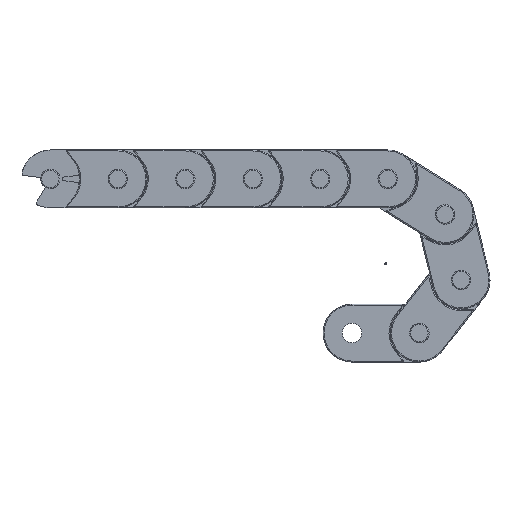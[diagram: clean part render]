
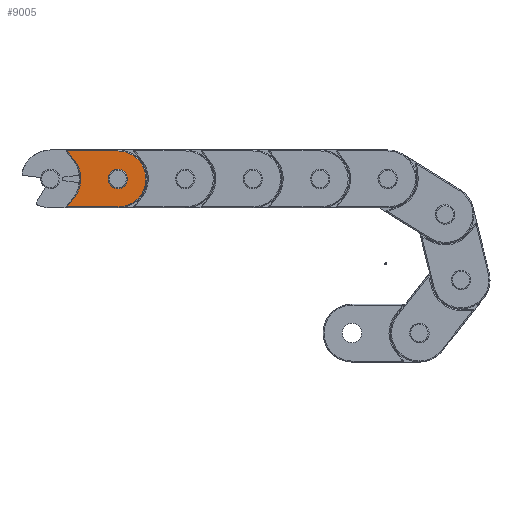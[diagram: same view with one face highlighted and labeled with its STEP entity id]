
A CAD part, left-side view. The second image highlights one B-rep face of the part: STEP entity #9005.
In plain terms, the highlighted free-form (B-spline) face has degree [1, 1] with [2, 2] control points.
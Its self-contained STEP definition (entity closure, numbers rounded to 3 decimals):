
#8937=CARTESIAN_POINT('',(-102.617,-6.606,-66.058));
#8938=CARTESIAN_POINT('',(-58.059,-2.458,-66.058));
#8939=CARTESIAN_POINT('',(-99.36,-41.59,-66.058));
#8940=CARTESIAN_POINT('',(-54.802,-37.442,-66.058));
#8941=B_SPLINE_SURFACE_WITH_KNOTS('',1,1,((#8937,#8939),(#8938,#8940)),.UNSPECIFIED.,.F.,.F.,.U.,(2,2),(2,2),(0.0,44.751),(0.0,35.135),.UNSPECIFIED.);
#8942=CARTESIAN_POINT('',(-57.698,-35.212,-66.058));
#8943=VERTEX_POINT('',#8942);
#8944=CARTESIAN_POINT('',(-83.877,-37.649,-66.058));
#8945=VERTEX_POINT('',#8944);
#8946=CARTESIAN_POINT('',(-57.698,-35.212,-66.058));
#8947=DIRECTION('',(-0.996,-0.093,0.));
#8948=VECTOR('',#8947,26.293);
#8949=LINE('',#8946,#8948);
#8950=EDGE_CURVE('',#8943,#8945,#8949,.T.);
#8951=ORIENTED_EDGE('',*,*,#8950,.T.);
#8952=CARTESIAN_POINT('',(-86.566,-8.774,-66.058));
#8953=VERTEX_POINT('',#8952);
#8954=CARTESIAN_POINT('',(-85.221,-23.211,-66.058));
#8955=DIRECTION('',(0.,0.,-1.0));
#8956=DIRECTION('',(-0.996,-0.093,0.));
#8957=AXIS2_PLACEMENT_3D('',#8954,#8955,#8956);
#8958=CIRCLE('',#8957,14.5);
#8959=EDGE_CURVE('',#8945,#8953,#8958,.T.);
#8960=ORIENTED_EDGE('',*,*,#8959,.T.);
#8961=CARTESIAN_POINT('',(-60.386,-6.336,-66.058));
#8962=VERTEX_POINT('',#8961);
#8963=CARTESIAN_POINT('',(-86.566,-8.774,-66.058));
#8964=DIRECTION('',(0.996,0.093,0.));
#8965=VECTOR('',#8964,26.293);
#8966=LINE('',#8963,#8965);
#8967=EDGE_CURVE('',#8953,#8962,#8966,.T.);
#8968=ORIENTED_EDGE('',*,*,#8967,.T.);
#8969=CARTESIAN_POINT('',(-63.654,-11.41,-66.058));
#8970=VERTEX_POINT('',#8969);
#8971=CARTESIAN_POINT('',(-60.386,-6.336,-66.058));
#8972=DIRECTION('',(-0.542,-0.841,0.0));
#8973=VECTOR('',#8972,6.035);
#8974=LINE('',#8971,#8973);
#8975=EDGE_CURVE('',#8962,#8970,#8974,.T.);
#8976=ORIENTED_EDGE('',*,*,#8975,.T.);
#8977=CARTESIAN_POINT('',(-61.847,-30.829,-66.058));
#8978=VERTEX_POINT('',#8977);
#8979=CARTESIAN_POINT('',(-50.372,-19.967,-66.058));
#8980=DIRECTION('',(0.,0.,1.0));
#8981=DIRECTION('',(-0.996,-0.093,0.));
#8982=AXIS2_PLACEMENT_3D('',#8979,#8980,#8981);
#8983=CIRCLE('',#8982,15.8);
#8984=EDGE_CURVE('',#8970,#8978,#8983,.T.);
#8985=ORIENTED_EDGE('',*,*,#8984,.T.);
#8986=CARTESIAN_POINT('',(-61.847,-30.829,-66.058));
#8987=DIRECTION('',(0.687,-0.726,0.));
#8988=VECTOR('',#8987,6.035);
#8989=LINE('',#8986,#8988);
#8990=EDGE_CURVE('',#8978,#8943,#8989,.T.);
#8991=ORIENTED_EDGE('',*,*,#8990,.T.);
#8992=EDGE_LOOP('',(#8951,#8960,#8968,#8976,#8985,#8991));
#8993=FACE_OUTER_BOUND('',#8992,.T.);
#8994=CARTESIAN_POINT('',(-80.193,-22.743,-66.058));
#8995=VERTEX_POINT('',#8994);
#8996=CARTESIAN_POINT('',(-85.221,-23.211,-66.058));
#8997=DIRECTION('',(0.,0.,-1.0));
#8998=DIRECTION('',(-0.996,-0.093,0.));
#8999=AXIS2_PLACEMENT_3D('',#8996,#8997,#8998);
#9000=CIRCLE('',#8999,5.05);
#9001=EDGE_CURVE('',#8995,#8995,#9000,.T.);
#9002=ORIENTED_EDGE('',*,*,#9001,.F.);
#9003=EDGE_LOOP('',(#9002));
#9004=FACE_BOUND('',#9003,.T.);
#9005=ADVANCED_FACE('',(#8993,#9004),#8941,.T.);
